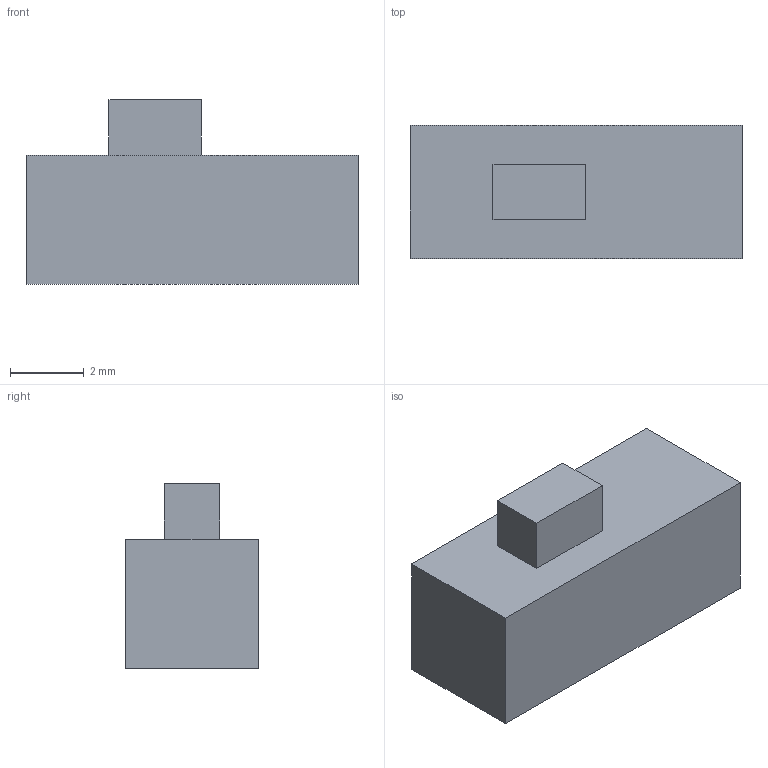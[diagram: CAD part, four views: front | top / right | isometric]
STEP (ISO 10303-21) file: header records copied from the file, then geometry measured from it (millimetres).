
FILE_DESCRIPTION(('Open CASCADE Model'),'2;1');
FILE_NAME('Open CASCADE Shape Model','2026-10-25T11:53:49',('Author'),( 'Open CASCADE'),'Open CASCADE STEP processor 8.0','Open CASCADE 8.0' ,'Unknown');
FILE_SCHEMA(('AUTOMOTIVE_DESIGN { 1 0 10303 214 1 1 1 1 }'));
Length unit declared in the file: millimetre
Products named in the file (3): Open CASCADE STEP translator 8.0 2; Open CASCADE STEP translator 8.0 2.1; Open CASCADE STEP translator 8.0 2.2
Assembly tree (2 placements, depth 2):
  Open CASCADE STEP translator 8.0 2
    Open CASCADE STEP translator 8.0 2.1
    Open CASCADE STEP translator 8.0 2.2
Bounding box: 9 x 3.6 x 5 mm (x, y, z)
Volume: 119 mm3; surface area: 172.5 mm2
Topology: 2 solids, 2 shells, 12 faces, 24 edges, 16 vertices
Faces by surface type: plane 12
Entity records: 664 total; most frequent: CARTESIAN_POINT 103, DIRECTION 102, LINE 72, VECTOR 72, ORIENTED_EDGE 48, PCURVE 48, DEFINITIONAL_REPRESENTATION 48, EDGE_CURVE 24
